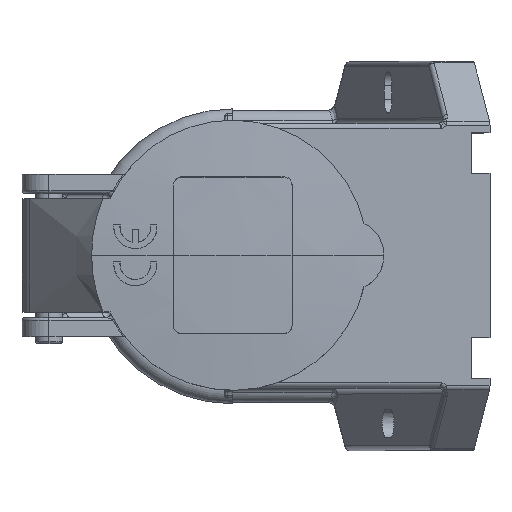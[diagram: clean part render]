
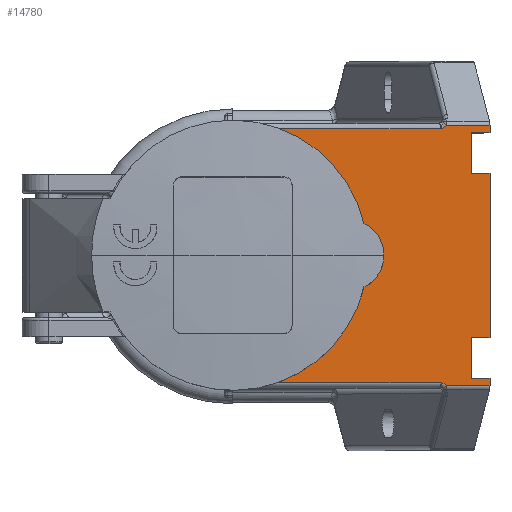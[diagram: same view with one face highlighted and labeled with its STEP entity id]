
A CAD part, top view. The second image highlights one B-rep face of the part: STEP entity #14780.
In plain terms, the highlighted planar face has unit normal (0, 0, 1).
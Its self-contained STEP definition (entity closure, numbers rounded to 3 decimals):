
#1034=CARTESIAN_POINT('',(47.623,-24.096,0.));
#1080=CARTESIAN_POINT('',(47.623,24.096,0.));
#2407=DIRECTION('',(0.,1.,0.));
#2408=VECTOR('',#2407,0.368);
#2409=CARTESIAN_POINT('',(0.,-23.5,0.));
#2410=LINE('1483',#2409,#2408);
#2414=CARTESIAN_POINT('',(0.,0.,0.));
#2415=DIRECTION('',(0.,0.,-1.));
#2416=DIRECTION('',(0.,1.,0.));
#2417=AXIS2_PLACEMENT_3D('',#2414,#2415,#2416);
#2422=DIRECTION('',(0.,1.,0.));
#2423=VECTOR('',#2422,0.368);
#2424=CARTESIAN_POINT('',(0.,23.132,0.));
#2425=LINE('1484',#2424,#2423);
#2429=DIRECTION('',(1.,0.,0.));
#2430=VECTOR('',#2429,38.573);
#2431=CARTESIAN_POINT('',(0.,23.5,0.));
#2432=LINE('1525',#2431,#2430);
#2436=CARTESIAN_POINT('',(38.573,23.5,
0.));
#2437=CARTESIAN_POINT('',(38.607,23.505,
0.));
#2438=CARTESIAN_POINT('',(38.676,23.52,0.));
#2439=CARTESIAN_POINT('',(38.787,23.552,
0.));
#2440=CARTESIAN_POINT('',(38.905,23.598,0.));
#2441=CARTESIAN_POINT('',(39.03,23.658,
0.));
#2442=CARTESIAN_POINT('',(39.161,23.734,0.));
#2443=CARTESIAN_POINT('',(39.297,23.829,
0.));
#2444=CARTESIAN_POINT('',(39.436,23.947,
0.));
#2445=CARTESIAN_POINT('',(39.529,24.043,0.));
#2446=CARTESIAN_POINT('',(39.575,24.096,0.));
#2451=DIRECTION('',(0.,-1.,0.));
#2452=VECTOR('',#2451,1.396);
#2453=CARTESIAN_POINT('',(47.623,24.096,0.));
#2454=LINE('648',#2453,#2452);
#2458=DIRECTION('',(-1.,0.,0.));
#2459=VECTOR('',#2458,3.5);
#2460=CARTESIAN_POINT('',(47.623,22.7,0.));
#2461=LINE('564',#2460,#2459);
#2465=DIRECTION('',(0.,1.,0.));
#2466=VECTOR('',#2465,7.5);
#2467=CARTESIAN_POINT('',(44.123,15.2,0.));
#2468=LINE('563',#2467,#2466);
#2472=DIRECTION('',(-1.,0.,0.));
#2473=VECTOR('',#2472,3.5);
#2474=CARTESIAN_POINT('',(47.623,15.2,0.));
#2475=LINE('562',#2474,#2473);
#2479=DIRECTION('',(0.,-1.,0.));
#2480=VECTOR('',#2479,30.4);
#2481=CARTESIAN_POINT('',(47.623,15.2,0.));
#2482=LINE('572',#2481,#2480);
#2486=DIRECTION('',(-1.,0.,0.));
#2487=VECTOR('',#2486,3.5);
#2488=CARTESIAN_POINT('',(47.623,-15.2,0.));
#2489=LINE('567',#2488,#2487);
#2493=DIRECTION('',(0.,1.,0.));
#2494=VECTOR('',#2493,7.5);
#2495=CARTESIAN_POINT('',(44.123,-22.7,0.));
#2496=LINE('566',#2495,#2494);
#2500=DIRECTION('',(-1.,0.,0.));
#2501=VECTOR('',#2500,3.5);
#2502=CARTESIAN_POINT('',(47.623,-22.7,0.));
#2503=LINE('565',#2502,#2501);
#2507=DIRECTION('',(0.,-1.,0.));
#2508=VECTOR('',#2507,1.396);
#2509=CARTESIAN_POINT('',(47.623,-22.7,0.));
#2510=LINE('649',#2509,#2508);
#2514=CARTESIAN_POINT('',(39.575,-24.096,0.));
#2515=CARTESIAN_POINT('',(39.508,-24.018,0.));
#2516=CARTESIAN_POINT('',(39.368,-23.882,
0.));
#2517=CARTESIAN_POINT('',(39.157,-23.728,
0.));
#2518=CARTESIAN_POINT('',(38.952,-23.615,
0.));
#2519=CARTESIAN_POINT('',(38.755,-23.539,
0.));
#2520=CARTESIAN_POINT('',(38.632,-23.509,
0.));
#2521=CARTESIAN_POINT('',(38.573,-23.5,
0.));
#2526=DIRECTION('',(1.,0.,0.));
#2527=VECTOR('',#2526,38.573);
#2528=CARTESIAN_POINT('',(0.,-23.5,0.));
#2529=LINE('1526',#2528,#2527);
#7005=CARTESIAN_POINT('',(38.573,23.5,
0.));
#7033=CARTESIAN_POINT('',(39.575,24.096,0.));
#7050=DIRECTION('',(-1.,0.,0.));
#7051=VECTOR('',#7050,8.047);
#7052=CARTESIAN_POINT('',(47.623,24.096,0.));
#7053=LINE('710',#7052,#7051);
#7536=DIRECTION('',(1.,0.,0.));
#7537=VECTOR('',#7536,8.047);
#7538=CARTESIAN_POINT('',(39.575,-24.096,0.));
#7539=LINE('709',#7538,#7537);
#10955=CARTESIAN_POINT('',(47.623,15.2,0.));
#10957=VERTEX_POINT('',#10955);
#10959=CARTESIAN_POINT('',(47.623,-15.2,0.));
#10961=VERTEX_POINT('',#10959);
#10963=CARTESIAN_POINT('',(44.123,15.2,0.));
#10964=VERTEX_POINT('',#10963);
#10965=CARTESIAN_POINT('',(44.123,22.7,0.));
#10966=VERTEX_POINT('',#10965);
#10967=CARTESIAN_POINT('',(47.623,22.7,0.));
#10968=VERTEX_POINT('',#10967);
#10969=CARTESIAN_POINT('',(47.623,-22.7,0.));
#10970=CARTESIAN_POINT('',(44.123,-22.7,0.));
#10971=VERTEX_POINT('',#10969);
#10972=VERTEX_POINT('',#10970);
#10973=CARTESIAN_POINT('',(44.123,-15.2,0.));
#10974=VERTEX_POINT('',#10973);
#11065=VERTEX_POINT('',#1080);
#11066=VERTEX_POINT('',#1034);
#11067=VERTEX_POINT('',#2514);
#11068=VERTEX_POINT('',#2521);
#11117=VERTEX_POINT('',#7033);
#11118=VERTEX_POINT('',#7005);
#11927=CARTESIAN_POINT('',(0.,-23.5,0.));
#11928=CARTESIAN_POINT('',(0.,-23.132,0.));
#11929=VERTEX_POINT('',#11927);
#11930=VERTEX_POINT('',#11928);
#11931=CARTESIAN_POINT('',(0.,23.132,0.));
#11932=CARTESIAN_POINT('',(0.,23.5,0.));
#11933=VERTEX_POINT('',#11931);
#11934=VERTEX_POINT('',#11932);
#14741=CARTESIAN_POINT('',(0.,-24.5,0.));
#14742=DIRECTION('',(0.,0.,1.));
#14743=DIRECTION('',(0.,1.,0.));
#14744=AXIS2_PLACEMENT_3D('',#14741,#14742,#14743);
#14745=PLANE('38',#14744);
#14746=ORIENTED_EDGE('1483',*,*,#14683,.T.);
#14748=ORIENTED_EDGE('1537',*,*,#14747,.F.);
#14750=ORIENTED_EDGE('1484',*,*,#14749,.T.);
#14752=ORIENTED_EDGE('1525',*,*,#14751,.T.);
#14754=ORIENTED_EDGE('689',*,*,#14753,.T.);
#14756=ORIENTED_EDGE('710',*,*,#14755,.F.);
#14757=ORIENTED_EDGE('648',*,*,#12684,.T.);
#14759=ORIENTED_EDGE('564',*,*,#14758,.T.);
#14761=ORIENTED_EDGE('563',*,*,#14760,.F.);
#14763=ORIENTED_EDGE('562',*,*,#14762,.F.);
#14765=ORIENTED_EDGE('572',*,*,#14764,.T.);
#14767=ORIENTED_EDGE('567',*,*,#14766,.T.);
#14769=ORIENTED_EDGE('566',*,*,#14768,.F.);
#14771=ORIENTED_EDGE('565',*,*,#14770,.F.);
#14772=ORIENTED_EDGE('649',*,*,#12668,.T.);
#14774=ORIENTED_EDGE('709',*,*,#14773,.F.);
#14776=ORIENTED_EDGE('650',*,*,#14775,.T.);
#14777=ORIENTED_EDGE('1526',*,*,#14721,.F.);
#14778=EDGE_LOOP('38',(#14746,#14748,#14750,#14752,#14754,#14756,#14757,#14759,
#14761,#14763,#14765,#14767,#14769,#14771,#14772,#14774,#14776,#14777));
#14779=FACE_OUTER_BOUND('38',#14778,.F.);
#2418=CIRCLE('1537',#2417,23.132);
#2447=B_SPLINE_CURVE_WITH_KNOTS('689',3,(#2436,#2437,#2438,#2439,#2440,#2441,
#2442,#2443,#2444,#2445,#2446),.UNSPECIFIED.,.F.,.F.,(4,1,1,1,1,1,1,1,4),(0.,
0.125,0.25,0.375,0.5,0.625,0.75,0.875,1.),.UNSPECIFIED.);
#2522=B_SPLINE_CURVE_WITH_KNOTS('650',3,(#2514,#2515,#2516,#2517,#2518,#2519,
#2520,#2521),.UNSPECIFIED.,.F.,.F.,(4,1,1,1,1,4),(0.,0.2,0.4,0.6,0.8,
1.),.UNSPECIFIED.);
#12668=EDGE_CURVE('649',#10971,#11066,#2510,.T.);
#12684=EDGE_CURVE('648',#11065,#10968,#2454,.T.);
#14683=EDGE_CURVE('1483',#11929,#11930,#2410,.T.);
#14721=EDGE_CURVE('1526',#11929,#11068,#2529,.T.);
#14747=EDGE_CURVE('1537',#11933,#11930,#2418,.T.);
#14749=EDGE_CURVE('1484',#11933,#11934,#2425,.T.);
#14751=EDGE_CURVE('1525',#11934,#11118,#2432,.T.);
#14753=EDGE_CURVE('689',#11118,#11117,#2447,.T.);
#14755=EDGE_CURVE('710',#11065,#11117,#7053,.T.);
#14758=EDGE_CURVE('564',#10968,#10966,#2461,.T.);
#14760=EDGE_CURVE('563',#10964,#10966,#2468,.T.);
#14762=EDGE_CURVE('562',#10957,#10964,#2475,.T.);
#14764=EDGE_CURVE('572',#10957,#10961,#2482,.T.);
#14766=EDGE_CURVE('567',#10961,#10974,#2489,.T.);
#14768=EDGE_CURVE('566',#10972,#10974,#2496,.T.);
#14770=EDGE_CURVE('565',#10971,#10972,#2503,.T.);
#14773=EDGE_CURVE('709',#11067,#11066,#7539,.T.);
#14775=EDGE_CURVE('650',#11067,#11068,#2522,.T.);
#14780=ADVANCED_FACE('38',(#14779),#14745,.T.);
